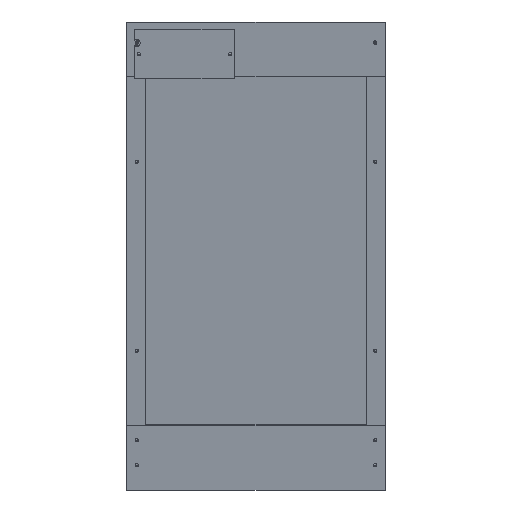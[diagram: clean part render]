
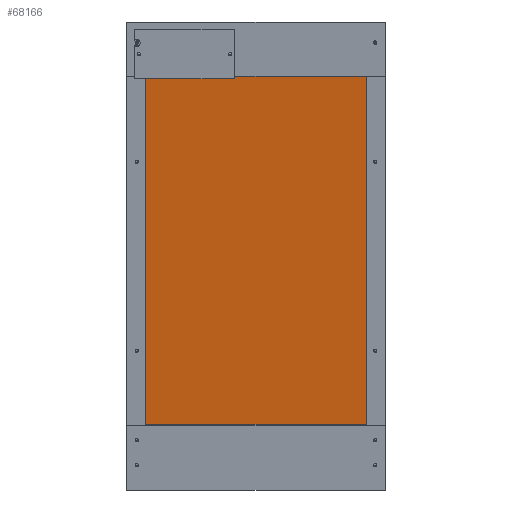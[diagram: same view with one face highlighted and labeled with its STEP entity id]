
A CAD part, top view. The second image highlights one B-rep face of the part: STEP entity #68166.
In plain terms, the highlighted planar face has unit normal (0, -0.174, 0.985).
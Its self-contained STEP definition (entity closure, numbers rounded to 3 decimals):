
#67997 = PLANE('',#67998);
#67998 = AXIS2_PLACEMENT_3D('',#67999,#68000,#68001);
#67999 = CARTESIAN_POINT('',(18.1,64.,86.285));
#68000 = DIRECTION('',(-0.,1.,0.));
#68001 = DIRECTION('',(0.,0.,-1.));
#68025 = PLANE('',#68026);
#68026 = AXIS2_PLACEMENT_3D('',#68027,#68028,#68029);
#68027 = CARTESIAN_POINT('',(241.9,240.675,111.437));
#68028 = DIRECTION('',(1.,0.,0.));
#68029 = DIRECTION('',(-0.,0.,1.));
#68053 = PLANE('',#68054);
#68054 = AXIS2_PLACEMENT_3D('',#68055,#68056,#68057);
#68055 = CARTESIAN_POINT('',(18.1,417.349,136.59));
#68056 = DIRECTION('',(0.,-1.,0.));
#68057 = DIRECTION('',(0.,0.,1.));
#68079 = PLANE('',#68080);
#68080 = AXIS2_PLACEMENT_3D('',#68081,#68082,#68083);
#68081 = CARTESIAN_POINT('',(18.1,240.675,111.437));
#68082 = DIRECTION('',(1.,0.,0.));
#68083 = DIRECTION('',(-0.,0.,1.));
#68096 = VERTEX_POINT('',#68097);
#68097 = CARTESIAN_POINT('',(241.9,417.349,148.59));
#68118 = EDGE_CURVE('',#68119,#68096,#68121,.T.);
#68119 = VERTEX_POINT('',#68120);
#68120 = CARTESIAN_POINT('',(18.1,417.349,148.59));
#68121 = SURFACE_CURVE('',#68122,(#68126,#68133),.PCURVE_S1.);
#68122 = LINE('',#68123,#68124);
#68123 = CARTESIAN_POINT('',(18.1,417.349,148.59));
#68124 = VECTOR('',#68125,1.);
#68125 = DIRECTION('',(1.,0.,0.));
#68126 = PCURVE('',#68053,#68127);
#68127 = DEFINITIONAL_REPRESENTATION('',(#68128),#68132);
#68128 = LINE('',#68129,#68130);
#68129 = CARTESIAN_POINT('',(12.,0.));
#68130 = VECTOR('',#68131,1.);
#68131 = DIRECTION('',(0.,-1.));
#68132 = ( GEOMETRIC_REPRESENTATION_CONTEXT(2) 
PARAMETRIC_REPRESENTATION_CONTEXT() REPRESENTATION_CONTEXT('2D SPACE',''
  ) );
#68133 = PCURVE('',#68134,#68139);
#68134 = PLANE('',#68135);
#68135 = AXIS2_PLACEMENT_3D('',#68136,#68137,#68138);
#68136 = CARTESIAN_POINT('',(18.1,417.349,148.59));
#68137 = DIRECTION('',(0.,0.174,-0.985));
#68138 = DIRECTION('',(0.,-0.985,-0.174));
#68139 = DEFINITIONAL_REPRESENTATION('',(#68140),#68144);
#68140 = LINE('',#68141,#68142);
#68141 = CARTESIAN_POINT('',(0.,0.));
#68142 = VECTOR('',#68143,1.);
#68143 = DIRECTION('',(0.,-1.));
#68144 = ( GEOMETRIC_REPRESENTATION_CONTEXT(2) 
PARAMETRIC_REPRESENTATION_CONTEXT() REPRESENTATION_CONTEXT('2D SPACE',''
  ) );
#68166 = ADVANCED_FACE('',(#68167),#68134,.F.);
#68167 = FACE_BOUND('',#68168,.F.);
#68168 = EDGE_LOOP('',(#68169,#68170,#68193,#68216));
#68169 = ORIENTED_EDGE('',*,*,#68118,.T.);
#68170 = ORIENTED_EDGE('',*,*,#68171,.T.);
#68171 = EDGE_CURVE('',#68096,#68172,#68174,.T.);
#68172 = VERTEX_POINT('',#68173);
#68173 = CARTESIAN_POINT('',(241.9,64.,86.285));
#68174 = SURFACE_CURVE('',#68175,(#68179,#68186),.PCURVE_S1.);
#68175 = LINE('',#68176,#68177);
#68176 = CARTESIAN_POINT('',(241.9,417.349,148.59));
#68177 = VECTOR('',#68178,1.);
#68178 = DIRECTION('',(0.,-0.985,-0.174));
#68179 = PCURVE('',#68134,#68180);
#68180 = DEFINITIONAL_REPRESENTATION('',(#68181),#68185);
#68181 = LINE('',#68182,#68183);
#68182 = CARTESIAN_POINT('',(0.,-223.8));
#68183 = VECTOR('',#68184,1.);
#68184 = DIRECTION('',(1.,0.));
#68185 = ( GEOMETRIC_REPRESENTATION_CONTEXT(2) 
PARAMETRIC_REPRESENTATION_CONTEXT() REPRESENTATION_CONTEXT('2D SPACE',''
  ) );
#68186 = PCURVE('',#68025,#68187);
#68187 = DEFINITIONAL_REPRESENTATION('',(#68188),#68192);
#68188 = LINE('',#68189,#68190);
#68189 = CARTESIAN_POINT('',(37.152,-176.675));
#68190 = VECTOR('',#68191,1.);
#68191 = DIRECTION('',(-0.174,0.985));
#68192 = ( GEOMETRIC_REPRESENTATION_CONTEXT(2) 
PARAMETRIC_REPRESENTATION_CONTEXT() REPRESENTATION_CONTEXT('2D SPACE',''
  ) );
#68193 = ORIENTED_EDGE('',*,*,#68194,.F.);
#68194 = EDGE_CURVE('',#68195,#68172,#68197,.T.);
#68195 = VERTEX_POINT('',#68196);
#68196 = CARTESIAN_POINT('',(18.1,64.,86.285));
#68197 = SURFACE_CURVE('',#68198,(#68202,#68209),.PCURVE_S1.);
#68198 = LINE('',#68199,#68200);
#68199 = CARTESIAN_POINT('',(18.1,64.,86.285));
#68200 = VECTOR('',#68201,1.);
#68201 = DIRECTION('',(1.,0.,0.));
#68202 = PCURVE('',#68134,#68203);
#68203 = DEFINITIONAL_REPRESENTATION('',(#68204),#68208);
#68204 = LINE('',#68205,#68206);
#68205 = CARTESIAN_POINT('',(358.8,0.));
#68206 = VECTOR('',#68207,1.);
#68207 = DIRECTION('',(0.,-1.));
#68208 = ( GEOMETRIC_REPRESENTATION_CONTEXT(2) 
PARAMETRIC_REPRESENTATION_CONTEXT() REPRESENTATION_CONTEXT('2D SPACE',''
  ) );
#68209 = PCURVE('',#67997,#68210);
#68210 = DEFINITIONAL_REPRESENTATION('',(#68211),#68215);
#68211 = LINE('',#68212,#68213);
#68212 = CARTESIAN_POINT('',(0.,0.));
#68213 = VECTOR('',#68214,1.);
#68214 = DIRECTION('',(0.,-1.));
#68215 = ( GEOMETRIC_REPRESENTATION_CONTEXT(2) 
PARAMETRIC_REPRESENTATION_CONTEXT() REPRESENTATION_CONTEXT('2D SPACE',''
  ) );
#68216 = ORIENTED_EDGE('',*,*,#68217,.F.);
#68217 = EDGE_CURVE('',#68119,#68195,#68218,.T.);
#68218 = SURFACE_CURVE('',#68219,(#68223,#68230),.PCURVE_S1.);
#68219 = LINE('',#68220,#68221);
#68220 = CARTESIAN_POINT('',(18.1,417.349,148.59));
#68221 = VECTOR('',#68222,1.);
#68222 = DIRECTION('',(0.,-0.985,-0.174));
#68223 = PCURVE('',#68134,#68224);
#68224 = DEFINITIONAL_REPRESENTATION('',(#68225),#68229);
#68225 = LINE('',#68226,#68227);
#68226 = CARTESIAN_POINT('',(0.,0.));
#68227 = VECTOR('',#68228,1.);
#68228 = DIRECTION('',(1.,0.));
#68229 = ( GEOMETRIC_REPRESENTATION_CONTEXT(2) 
PARAMETRIC_REPRESENTATION_CONTEXT() REPRESENTATION_CONTEXT('2D SPACE',''
  ) );
#68230 = PCURVE('',#68079,#68231);
#68231 = DEFINITIONAL_REPRESENTATION('',(#68232),#68236);
#68232 = LINE('',#68233,#68234);
#68233 = CARTESIAN_POINT('',(37.152,-176.675));
#68234 = VECTOR('',#68235,1.);
#68235 = DIRECTION('',(-0.174,0.985));
#68236 = ( GEOMETRIC_REPRESENTATION_CONTEXT(2) 
PARAMETRIC_REPRESENTATION_CONTEXT() REPRESENTATION_CONTEXT('2D SPACE',''
  ) );
